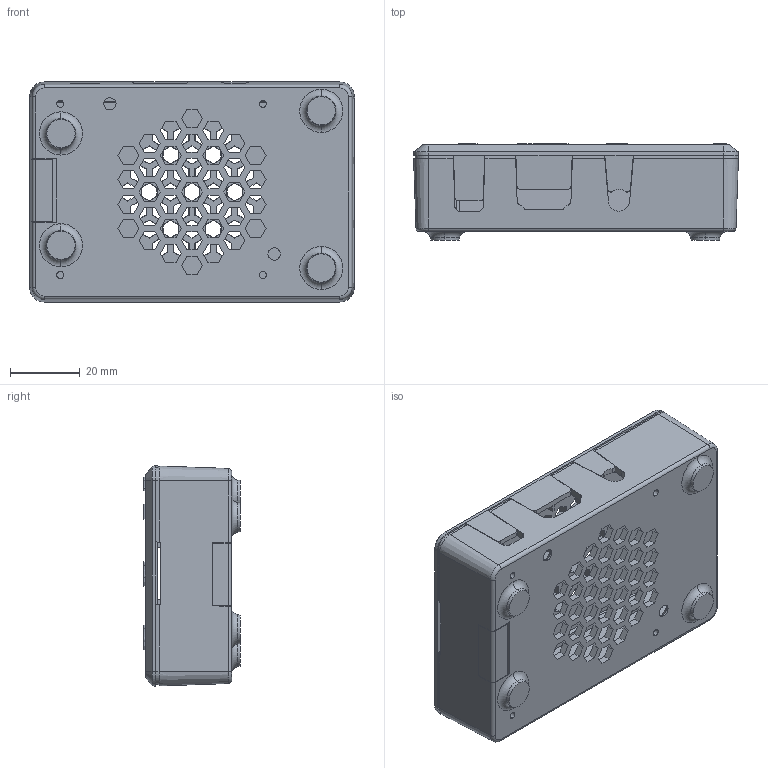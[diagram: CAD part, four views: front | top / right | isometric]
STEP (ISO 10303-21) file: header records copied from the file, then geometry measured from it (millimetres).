
FILE_DESCRIPTION (( 'STEP AP203' ), '1' );
FILE_NAME ('PI314.STEP', '2018-04-03T13:09:38', ( '' ), ( '' ), 'SwSTEP 2.0', 'SolidWorks 2015', '' );
FILE_SCHEMA (( 'CONFIG_CONTROL_DESIGN' ));
Products named in the file (1): PI314
Bounding box: 93.02 x 27.65 x 63.02 mm (x, y, z)
Volume: 33828.8 mm3; surface area: 37192.1 mm2
Topology: 3 solids, 3 shells, 1287 faces, 3624 edges, 2401 vertices
Faces by surface type: plane 1001, bspline 173, cone 55, cylinder 46, torus 12
Entity records: 46193 total; most frequent: CARTESIAN_POINT 13682, ORIENTED_EDGE 7248, DIRECTION 5631, EDGE_CURVE 3624, LINE 3057, VECTOR 3057, VERTEX_POINT 2401, EDGE_LOOP 1511
